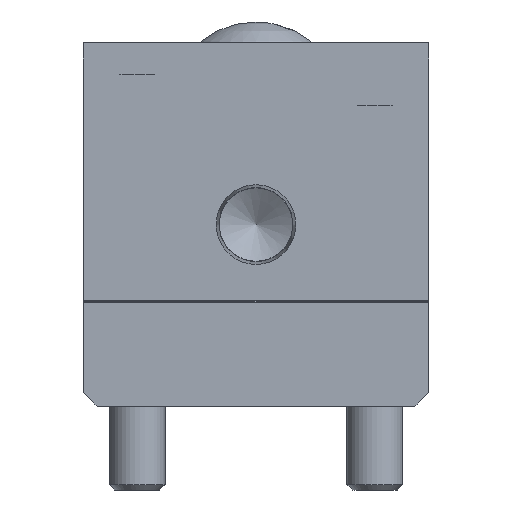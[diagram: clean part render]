
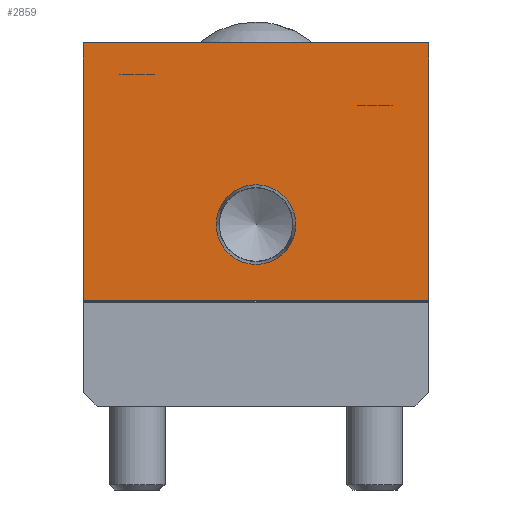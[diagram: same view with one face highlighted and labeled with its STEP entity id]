
A CAD part, front view. The second image highlights one B-rep face of the part: STEP entity #2859.
In plain terms, the highlighted planar face has unit normal (0, -1, 0).
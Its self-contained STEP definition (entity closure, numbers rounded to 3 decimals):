
#202=FACE_BOUND('',#651,.T.);
#278=CIRCLE('',#3040,5.704);
#440=FACE_OUTER_BOUND('',#650,.T.);
#650=EDGE_LOOP('',(#2095,#2096,#2097,#2098));
#651=EDGE_LOOP('',(#2099));
#918=LINE('',#4276,#1136);
#921=LINE('',#4281,#1139);
#923=LINE('',#4289,#1141);
#937=LINE('',#4325,#1155);
#1136=VECTOR('',#3450,36.9);
#1139=VECTOR('',#3455,49.5);
#1141=VECTOR('',#3463,36.9);
#1155=VECTOR('',#3507,49.5);
#1337=VERTEX_POINT('',#4273);
#1338=VERTEX_POINT('',#4275);
#1339=VERTEX_POINT('',#4279);
#1342=VERTEX_POINT('',#4287);
#1346=VERTEX_POINT('',#4301);
#1604=EDGE_CURVE('',#1338,#1337,#918,.T.);
#1607=EDGE_CURVE('',#1337,#1339,#921,.T.);
#1611=EDGE_CURVE('',#1342,#1339,#923,.T.);
#1616=EDGE_CURVE('',#1346,#1346,#278,.T.);
#1629=EDGE_CURVE('',#1342,#1338,#937,.T.);
#2095=ORIENTED_EDGE('',*,*,#1629,.T.);
#2096=ORIENTED_EDGE('',*,*,#1604,.T.);
#2097=ORIENTED_EDGE('',*,*,#1607,.T.);
#2098=ORIENTED_EDGE('',*,*,#1611,.F.);
#2099=ORIENTED_EDGE('',*,*,#1616,.T.);
#2580=PLANE('',#3073);
#2859=ADVANCED_FACE('',(#440,#202),#2580,.T.);
#3040=AXIS2_PLACEMENT_3D('',#4302,#3478,#3479);
#3073=AXIS2_PLACEMENT_3D('',#4363,#3561,#3562);
#3450=DIRECTION('',(0.,0.,1.));
#3455=DIRECTION('',(-1.,0.,0.));
#3463=DIRECTION('',(0.,0.,1.));
#3478=DIRECTION('center_axis',(0.,1.,0.));
#3479=DIRECTION('ref_axis',(1.,0.,0.));
#3507=DIRECTION('',(1.,0.,0.));
#3561=DIRECTION('center_axis',(0.,-1.,0.));
#3562=DIRECTION('ref_axis',(0.,0.,-1.));
#4273=CARTESIAN_POINT('',(24.75,0.,52.));
#4275=CARTESIAN_POINT('',(24.75,0.,15.1));
#4276=CARTESIAN_POINT('',(24.75,0.,0.));
#4279=CARTESIAN_POINT('',(-24.75,0.,52.));
#4281=CARTESIAN_POINT('',(24.75,0.,52.));
#4287=CARTESIAN_POINT('',(-24.75,0.,15.1));
#4289=CARTESIAN_POINT('',(-24.75,0.,0.));
#4301=CARTESIAN_POINT('',(5.704,0.,26.));
#4302=CARTESIAN_POINT('Origin',(0.,0.,26.));
#4325=CARTESIAN_POINT('',(24.75,0.,15.1));
#4363=CARTESIAN_POINT('Origin',(24.75,0.,0.));
